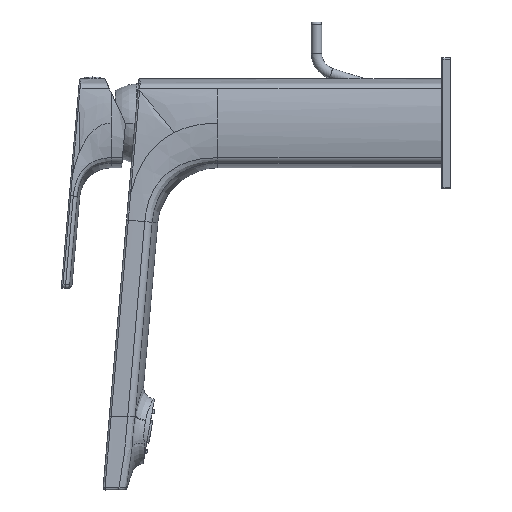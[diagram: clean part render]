
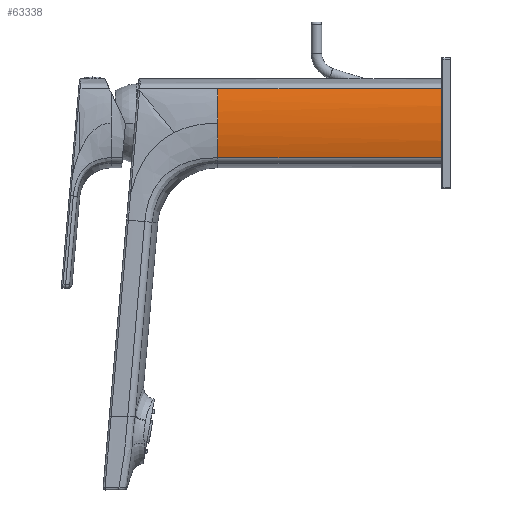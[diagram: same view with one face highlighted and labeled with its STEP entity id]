
A CAD part, left-side view. The second image highlights one B-rep face of the part: STEP entity #63338.
In plain terms, the highlighted cylindrical face has radius 50 mm (diameter 100 mm), a partial arc.
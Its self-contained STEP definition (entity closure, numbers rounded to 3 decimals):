
#9351=CARTESIAN_POINT('',(33.,85.366,0.));
#9352=DIRECTION('',(0.,-1.,0.));
#9353=DIRECTION('',(-1.,0.,0.));
#9354=AXIS2_PLACEMENT_3D('',#9351,#9352,#9353);
#9435=CARTESIAN_POINT('',(33.,85.366,0.));
#9436=DIRECTION('',(0.,-1.,0.));
#9437=DIRECTION('',(-0.965,0.,0.263));
#9438=AXIS2_PLACEMENT_3D('',#9435,#9436,#9437);
#23633=DIRECTION('',(0.,1.,0.));
#23634=VECTOR('',#23633,85.366);
#23635=CARTESIAN_POINT('',(-15.243,0.,-13.137));
#23636=LINE('',#23635,#23634);
#23727=CARTESIAN_POINT('',(33.,0.,0.));
#23728=DIRECTION('',(0.,-1.,0.));
#23729=DIRECTION('',(-0.965,0.,0.263));
#23730=AXIS2_PLACEMENT_3D('',#23727,#23728,#23729);
#23732=DIRECTION('',(0.,1.,0.));
#23733=VECTOR('',#23732,85.366);
#23734=CARTESIAN_POINT('',(-15.243,0.,13.137));
#23735=LINE('',#23734,#23733);
#29425=CARTESIAN_POINT('',(-17.,85.366,0.));
#29426=CARTESIAN_POINT('',(-15.243,85.366,
-13.137));
#29427=VERTEX_POINT('',#29425);
#29428=VERTEX_POINT('',#29426);
#29430=CARTESIAN_POINT('',(-15.243,85.366,
13.137));
#29431=VERTEX_POINT('',#29430);
#31853=CARTESIAN_POINT('',(-15.243,0.,-13.137));
#31854=VERTEX_POINT('',#31853);
#31855=CARTESIAN_POINT('',(-15.243,0.,13.137));
#31856=VERTEX_POINT('',#31855);
#63326=CARTESIAN_POINT('',(33.,0.,0.));
#63327=DIRECTION('',(0.,-1.,0.));
#63328=DIRECTION('',(0.,0.,-1.));
#63329=AXIS2_PLACEMENT_3D('',#63326,#63327,#63328);
#63330=CYLINDRICAL_SURFACE('',#63329,50.);
#63331=ORIENTED_EDGE('',*,*,#44541,.T.);
#63332=ORIENTED_EDGE('',*,*,#63139,.T.);
#63333=ORIENTED_EDGE('',*,*,#44146,.F.);
#63334=ORIENTED_EDGE('',*,*,#44490,.F.);
#63335=ORIENTED_EDGE('',*,*,#44504,.F.);
#63336=EDGE_LOOP('',(#63331,#63332,#63333,#63334,#63335));
#63337=FACE_OUTER_BOUND('',#63336,.F.);
#63338=ADVANCED_FACE('',(#63337),#63330,.T.);
#9355=CIRCLE('',#9354,50.);
#9439=CIRCLE('',#9438,50.);
#23731=CIRCLE('',#23730,50.);
#44146=EDGE_CURVE('',#29427,#29428,#9355,.T.);
#44490=EDGE_CURVE('',#29431,#29427,#9439,.T.);
#44504=EDGE_CURVE('',#31856,#29431,#23735,.T.);
#44541=EDGE_CURVE('',#31856,#31854,#23731,.T.);
#63139=EDGE_CURVE('',#31854,#29428,#23636,.T.);
